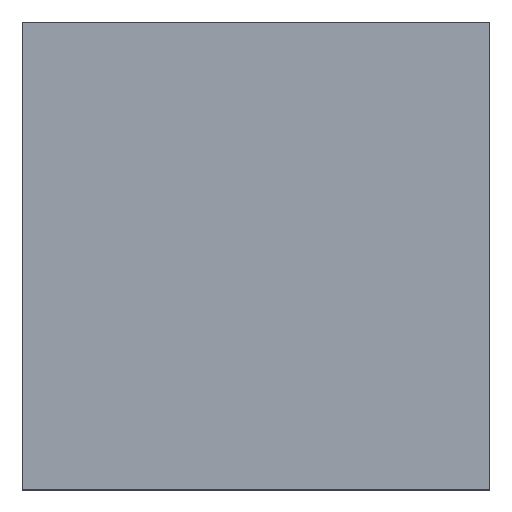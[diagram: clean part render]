
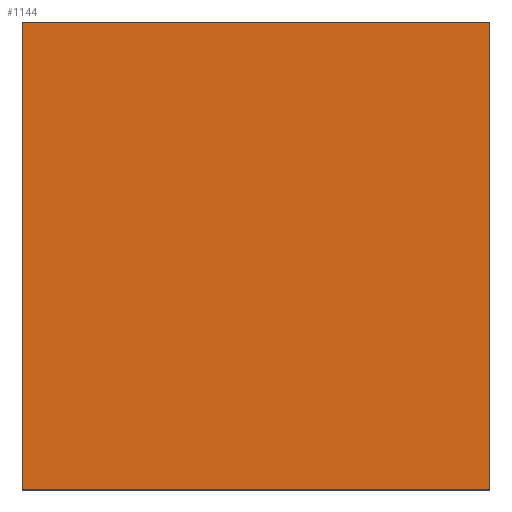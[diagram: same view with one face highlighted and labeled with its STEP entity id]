
A CAD part, top view. The second image highlights one B-rep face of the part: STEP entity #1144.
In plain terms, the highlighted planar face has unit normal (0, 0, 1).
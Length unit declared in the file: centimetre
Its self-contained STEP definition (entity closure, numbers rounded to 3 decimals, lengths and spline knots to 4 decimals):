
#64 = VECTOR ( 'NONE', #935, 100. ) ;
#81 = CARTESIAN_POINT ( 'NONE',  ( 0., 1000., 1000. ) ) ;
#90 = VECTOR ( 'NONE', #1132, 100. ) ;
#99 = CARTESIAN_POINT ( 'NONE',  ( 0., 1000., 1000. ) ) ;
#103 = DIRECTION ( 'NONE',  ( -1., 0., 0. ) ) ;
#157 = DIRECTION ( 'NONE',  ( 1., 0., 0. ) ) ;
#183 = LINE ( 'NONE', #81, #90 ) ;
#267 = CARTESIAN_POINT ( 'NONE',  ( 0., 0., 1000. ) ) ;
#274 = VERTEX_POINT ( 'NONE', #1055 ) ;
#361 = LINE ( 'NONE', #537, #853 ) ;
#390 = VERTEX_POINT ( 'NONE', #99 ) ;
#451 = CARTESIAN_POINT ( 'NONE',  ( 1000., 1000., 1000. ) ) ;
#537 = CARTESIAN_POINT ( 'NONE',  ( 0., 0., 1000. ) ) ;
#621 = VERTEX_POINT ( 'NONE', #713 ) ;
#646 = DIRECTION ( 'NONE',  ( 0., 0., 1. ) ) ;
#656 = LINE ( 'NONE', #451, #64 ) ;
#674 = ORIENTED_EDGE ( 'NONE', *, *, #930, .T. ) ;
#708 = ORIENTED_EDGE ( 'NONE', *, *, #1106, .T. ) ;
#713 = CARTESIAN_POINT ( 'NONE',  ( 1000., 1000., 1000. ) ) ;
#822 = ORIENTED_EDGE ( 'NONE', *, *, #886, .T. ) ;
#847 = ORIENTED_EDGE ( 'NONE', *, *, #1173, .T. ) ;
#853 = VECTOR ( 'NONE', #157, 100. ) ;
#875 = LINE ( 'NONE', #955, #1237 ) ;
#886 = EDGE_CURVE ( 'NONE', #390, #1094, #183, .T. ) ;
#891 = AXIS2_PLACEMENT_3D ( 'NONE', #267, #646, #1035 ) ;
#899 = EDGE_LOOP ( 'NONE', ( #822, #708, #674, #847 ) ) ;
#912 = FACE_OUTER_BOUND ( 'NONE', #899, .T. ) ;
#925 = PLANE ( 'NONE',  #891 ) ;
#930 = EDGE_CURVE ( 'NONE', #274, #621, #656, .T. ) ;
#935 = DIRECTION ( 'NONE',  ( 0., 1., 0. ) ) ;
#955 = CARTESIAN_POINT ( 'NONE',  ( 0., 1000., 1000. ) ) ;
#1028 = CARTESIAN_POINT ( 'NONE',  ( 0., 0., 1000. ) ) ;
#1035 = DIRECTION ( 'NONE',  ( 1., 0., 0. ) ) ;
#1055 = CARTESIAN_POINT ( 'NONE',  ( 1000., 0., 1000. ) ) ;
#1094 = VERTEX_POINT ( 'NONE', #1028 ) ;
#1106 = EDGE_CURVE ( 'NONE', #1094, #274, #361, .T. ) ;
#1132 = DIRECTION ( 'NONE',  ( 0., -1., 0. ) ) ;
#1144 = ADVANCED_FACE ( 'NONE', ( #912 ), #925, .T. ) ;
#1173 = EDGE_CURVE ( 'NONE', #621, #390, #875, .T. ) ;
#1237 = VECTOR ( 'NONE', #103, 100. ) ;
